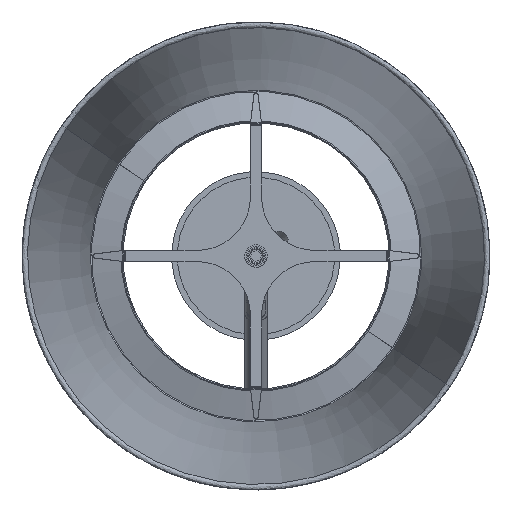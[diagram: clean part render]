
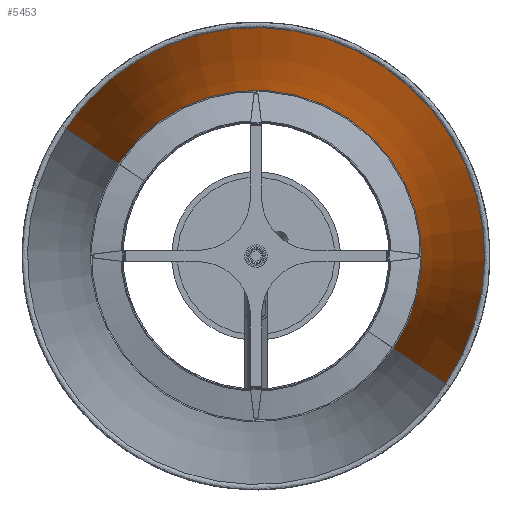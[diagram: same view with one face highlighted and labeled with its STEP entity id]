
A CAD part, front view. The second image highlights one B-rep face of the part: STEP entity #5453.
In plain terms, the highlighted toroidal (fillet/blend) face has major radius 1690.73 mm and minor radius 1603 mm.
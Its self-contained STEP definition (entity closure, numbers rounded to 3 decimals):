
#200 = CARTESIAN_POINT ( 'NONE',  ( -104.84, 310.735, 49.982 ) ) ;
#366 = CARTESIAN_POINT ( 'NONE',  ( -30.254, -18.288, 146.674 ) ) ;
#546 = CARTESIAN_POINT ( 'NONE',  ( 4.545, -18.288, -4.307 ) ) ;
#1052 = CARTESIAN_POINT ( 'NONE',  ( -7.756, -18.288, 124.057 ) ) ;
#1108 = EDGE_CURVE ( 'NONE', #5468, #4634, #6223, .T. ) ;
#1151 = CARTESIAN_POINT ( 'NONE',  ( 13.035, -18.288, 18.076 ) ) ;
#1172 = EDGE_LOOP ( 'NONE', ( #4757, #4746, #7853, #2636 ) ) ;
#1195 = CARTESIAN_POINT ( 'NONE',  ( 4.83, -18.288, 103.694 ) ) ;
#1264 = DIRECTION ( 'NONE',  ( 0.83, 0., -0.558 ) ) ;
#1387 = AXIS2_PLACEMENT_3D ( 'NONE', #4759, #2569, #8939 ) ;
#1700 = AXIS2_PLACEMENT_3D ( 'NONE', #4869, #4186, #1264 ) ;
#2436 = CARTESIAN_POINT ( 'NONE',  ( -205.981, -18.288, 117.948 ) ) ;
#2561 = CARTESIAN_POINT ( 'NONE',  ( -3.7, -18.288, -17.984 ) ) ;
#2569 = DIRECTION ( 'NONE',  ( -0.558, 0., -0.83 ) ) ;
#2606 = CARTESIAN_POINT ( 'NONE',  ( -136.124, -18.288, 168.023 ) ) ;
#2636 = ORIENTED_EDGE ( 'NONE', *, *, #8194, .F. ) ;
#2646 = CARTESIAN_POINT ( 'NONE',  ( -165.629, -18.288, 155.893 ) ) ;
#3132 = CARTESIAN_POINT ( 'NONE',  ( -196.432, -18.288, 130.749 ) ) ;
#3218 = CARTESIAN_POINT ( 'NONE',  ( 16.994, -18.288, 41.686 ) ) ;
#3263 = CARTESIAN_POINT ( 'NONE',  ( -88.57, -18.288, 171.01 ) ) ;
#3306 = CARTESIAN_POINT ( 'NONE',  ( -158.552, -18.288, 159.652 ) ) ;
#3322 = AXIS2_PLACEMENT_3D ( 'NONE', #4170, #5390, #5572 ) ;
#3427 = CARTESIAN_POINT ( 'NONE',  ( -3.7, -18.288, -17.984 ) ) ;
#3428 = CIRCLE ( 'NONE', #1700, 1603. ) ;
#3469 = B_SPLINE_CURVE_WITH_KNOTS ( 'NONE', 3,
 ( #2561, #3862, #546, #4567, #1151, #4655, #3218, #4710, #7343, #7384, #6083, #1195, #7996, #1052, #3903, #8739, #366, #5198, #3946, #6722, #6628, #3263, #5945, #6042, #8795, #2606, #6765, #3306, #2646, #5395, #8164, #3132, #4892, #6257 ),
 .UNSPECIFIED., .F., .F.,
 ( 4, 2, 2, 2, 2, 2, 2, 2, 2, 2, 2, 2, 2, 2, 2, 2, 4 ),
 ( 0., 0.031, 0.062, 0.094, 0.125, 0.156, 0.187, 0.219, 0.25, 0.281, 0.312, 0.344, 0.375, 0.406, 0.437, 0.469, 0.5 ),
 .UNSPECIFIED. ) ;
#3595 = CARTESIAN_POINT ( 'NONE',  ( -31.456, 263.749, 0.668 ) ) ;
#3604 = FACE_OUTER_BOUND ( 'NONE', #1172, .T. ) ;
#3862 = CARTESIAN_POINT ( 'NONE',  ( 0.749, -18.288, -11.364 ) ) ;
#3903 = CARTESIAN_POINT ( 'NONE',  ( -12.824, -18.288, 130.265 ) ) ;
#3946 = CARTESIAN_POINT ( 'NONE',  ( -50.551, -18.288, 159.367 ) ) ;
#4170 = CARTESIAN_POINT ( 'NONE',  ( -104.84, 263.749, 49.982 ) ) ;
#4186 = DIRECTION ( 'NONE',  ( 0.558, 0., 0.83 ) ) ;
#4218 = AXIS2_PLACEMENT_3D ( 'NONE', #200, #6550, #7789 ) ;
#4567 = CARTESIAN_POINT ( 'NONE',  ( 10.688, -18.288, 10.414 ) ) ;
#4634 = VERTEX_POINT ( 'NONE', #3595 ) ;
#4655 = CARTESIAN_POINT ( 'NONE',  ( 16.188, -18.288, 33.712 ) ) ;
#4710 = CARTESIAN_POINT ( 'NONE',  ( 17.036, -18.288, 57.636 ) ) ;
#4746 = ORIENTED_EDGE ( 'NONE', *, *, #8815, .T. ) ;
#4757 = ORIENTED_EDGE ( 'NONE', *, *, #1108, .T. ) ;
#4759 = CARTESIAN_POINT ( 'NONE',  ( -1508.147, 310.735, 993. ) ) ;
#4869 = CARTESIAN_POINT ( 'NONE',  ( 1298.467, 310.735, -893.036 ) ) ;
#4892 = CARTESIAN_POINT ( 'NONE',  ( -201.532, -18.288, 124.568 ) ) ;
#5198 = CARTESIAN_POINT ( 'NONE',  ( -43.494, -18.288, 155.571 ) ) ;
#5292 = VERTEX_POINT ( 'NONE', #2436 ) ;
#5390 = DIRECTION ( 'NONE',  ( 0., 1., 0. ) ) ;
#5395 = CARTESIAN_POINT ( 'NONE',  ( -178.915, -18.288, 147.066 ) ) ;
#5453 = ADVANCED_FACE ( 'NONE', ( #3604 ), #8136, .T. ) ;
#5468 = VERTEX_POINT ( 'NONE', #8449 ) ;
#5570 = CIRCLE ( 'NONE', #1387, 1603. ) ;
#5572 = DIRECTION ( 'NONE',  ( -0.83, 0., 0.558 ) ) ;
#5945 = CARTESIAN_POINT ( 'NONE',  ( -96.544, -18.288, 171.816 ) ) ;
#5998 = EDGE_CURVE ( 'NONE', #7101, #5292, #3469, .T. ) ;
#6042 = CARTESIAN_POINT ( 'NONE',  ( -112.494, -18.288, 171.858 ) ) ;
#6083 = CARTESIAN_POINT ( 'NONE',  ( 10.895, -18.288, 88.941 ) ) ;
#6223 = CIRCLE ( 'NONE', #3322, 88.414 ) ;
#6257 = CARTESIAN_POINT ( 'NONE',  ( -205.981, -18.288, 117.948 ) ) ;
#6550 = DIRECTION ( 'NONE',  ( 0., 1., 0. ) ) ;
#6628 = CARTESIAN_POINT ( 'NONE',  ( -72.934, -18.288, 167.857 ) ) ;
#6722 = CARTESIAN_POINT ( 'NONE',  ( -65.272, -18.288, 165.51 ) ) ;
#6765 = CARTESIAN_POINT ( 'NONE',  ( -143.799, -18.288, 165.717 ) ) ;
#7101 = VERTEX_POINT ( 'NONE', #3427 ) ;
#7343 = CARTESIAN_POINT ( 'NONE',  ( 16.272, -18.288, 65.614 ) ) ;
#7384 = CARTESIAN_POINT ( 'NONE',  ( 13.201, -18.288, 81.266 ) ) ;
#7789 = DIRECTION ( 'NONE',  ( -0.83, 0., 0.558 ) ) ;
#7853 = ORIENTED_EDGE ( 'NONE', *, *, #5998, .T. ) ;
#7996 = CARTESIAN_POINT ( 'NONE',  ( 1.071, -18.288, 110.771 ) ) ;
#8136 = TOROIDAL_SURFACE ( 'NONE', #4218, 1690.725, 1603. ) ;
#8164 = CARTESIAN_POINT ( 'NONE',  ( -185.123, -18.288, 141.998 ) ) ;
#8194 = EDGE_CURVE ( 'NONE', #5468, #5292, #5570, .T. ) ;
#8449 = CARTESIAN_POINT ( 'NONE',  ( -178.224, 263.749, 99.296 ) ) ;
#8739 = CARTESIAN_POINT ( 'NONE',  ( -24.073, -18.288, 141.574 ) ) ;
#8795 = CARTESIAN_POINT ( 'NONE',  ( -120.472, -18.288, 171.094 ) ) ;
#8815 = EDGE_CURVE ( 'NONE', #4634, #7101, #3428, .T. ) ;
#8939 = DIRECTION ( 'NONE',  ( -0.83, 0., 0.558 ) ) ;
